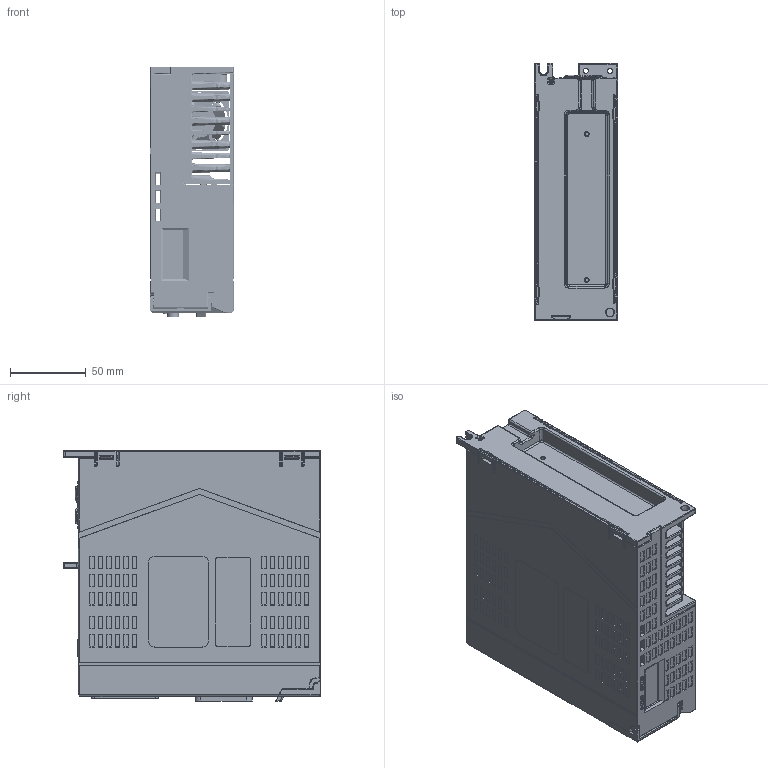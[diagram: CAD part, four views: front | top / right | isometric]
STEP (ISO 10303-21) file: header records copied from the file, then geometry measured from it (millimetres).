
FILE_DESCRIPTION((''),'2;1');
FILE_NAME('ASM0001_ASM','2021-09-27T11:54:32',('ZhangJF'),(''),'CREO PARAMETRIC BY PTC INC, 2019010','CREO PARAMETRIC BY PTC INC, 2019010','');
FILE_SCHEMA(('CONFIG_CONTROL_DESIGN','SHAPE_APPEARANCE_LAYERS_GROUPS'));
Products named in the file (7): 20210817; FANGAI; FENGSHAN-404010; FENGSHANWANG; PCB-4T-20210726; SDV3-B-SANREQI-20210917; ASM0001_ASM
Assembly tree (6 placements, depth 2):
  ASM0001_ASM
    20210817
    FANGAI
    FENGSHAN-404010
    FENGSHANWANG
    PCB-4T-20210726
    SDV3-B-SANREQI-20210917
Bounding box: 55 x 170.35 x 166.1 mm (x, y, z)
Volume: 587739.2 mm3; surface area: 352236.1 mm2
Topology: 18 solids, 18 shells, 6820 faces, 17702 edges, 11157 vertices
Faces by surface type: plane 4094, cylinder 1500, bspline 648, torus 173, cone 162, sphere 141, extrusion 102
Entity records: 288774 total; most frequent: CARTESIAN_POINT 77261, ORIENTED_EDGE 35358, DIRECTION 30901, EDGE_CURVE 17679, PRESENTATION_STYLE_ASSIGNMENT 13224, STYLED_ITEM 13220, VECTOR 12825, LINE 12723
